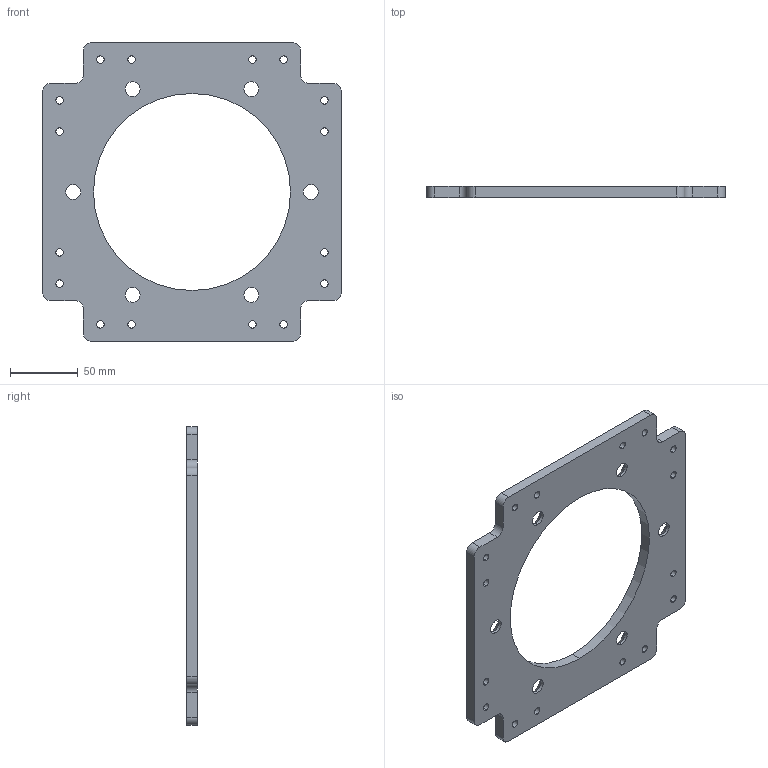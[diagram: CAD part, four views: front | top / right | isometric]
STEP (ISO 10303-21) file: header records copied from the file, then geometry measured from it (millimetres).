
FILE_DESCRIPTION (( 'STEP AP214' ), '1' );
FILE_NAME ('QC-G200.STEP', '2019-11-25T01:14:20', ( '微软用户' ), ( '微软中国' ), 'SwSTEP 2.0', 'SolidWorks 2016', '' );
FILE_SCHEMA (( 'AUTOMOTIVE_DESIGN' ));
Length unit declared in the file: millimetre
Products named in the file (1): QC-G200
Bounding box: 220 x 8 x 220 mm (x, y, z)
Volume: 213914.2 mm3; surface area: 68480.4 mm2
Topology: 1 solids, 1 shells, 84 faces, 234 edges, 152 vertices
Faces by surface type: cylinder 58, plane 14, cone 12
Entity records: 2876 total; most frequent: DIRECTION 532, CARTESIAN_POINT 471, ORIENTED_EDGE 468, EDGE_CURVE 234, AXIS2_PLACEMENT_3D 213, VERTEX_POINT 152, EDGE_LOOP 130, CIRCLE 128
